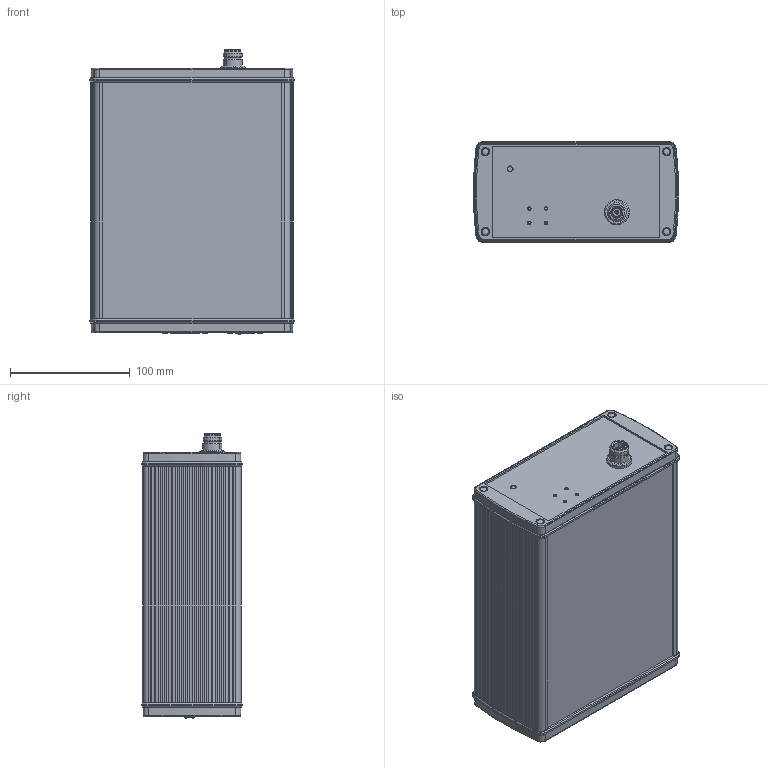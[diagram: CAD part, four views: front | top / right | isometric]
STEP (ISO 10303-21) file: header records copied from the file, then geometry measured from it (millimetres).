
FILE_DESCRIPTION(/* description */ ('Alibre Inc.'),/* implementation_level */ '2;1');
FILE_NAME(/* name */ 'export-EDB48EED-9693-41BC-B354-C8FAD378B878',/* time_stamp */ '2021-12-08T09:00:17+02:00',/* author */ (''),/* organization */ (''),/* preprocessor_version */ 'ST-DEVELOPER v17',/* originating_system */ 'Alibre',/* authorisation */ '');
FILE_SCHEMA (('CONFIG_CONTROL_DESIGN'));
Length unit declared in the file: millimetre
Products named in the file (18): ABD 1680_1009800_3D; 84168100_ABD 1680; C-5747844-06-3
Bounding box: 171.6 x 84.6 x 237.53 mm (x, y, z)
Volume: 507424.7 mm3; surface area: 364878.6 mm2
Topology: 32 solids, 34 shells, 3634 faces, 9560 edges, 6153 vertices
Faces by surface type: plane 1493, cylinder 1450, cone 259, bspline 172, sphere 137, torus 123
Full cylindrical faces by diameter (mm): 1.144 x15, 2 x1, 2.5 x4, 2.844 x2, 3 x12, 3.4 x4, 3.5 x1, 3.81 x2, 4 x5, 4.5 x1, 4.6 x2, 5 x1, 5.3 x8, 5.6 x8, 6 x9, 6.35 x1, 6.4 x8, 7 x4
Entity records: 98611 total; most frequent: CARTESIAN_POINT 25386, ORIENTED_EDGE 15700, DIRECTION 13102, EDGE_CURVE 7850, VERTEX_POINT 5078, AXIS2_PLACEMENT_3D 5055, VECTOR 4315, LINE 4315
